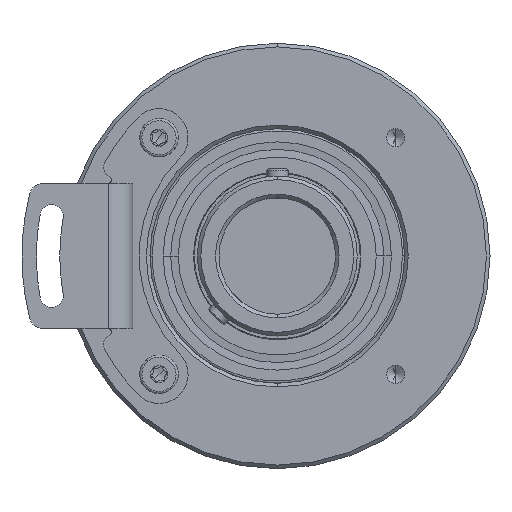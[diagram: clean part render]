
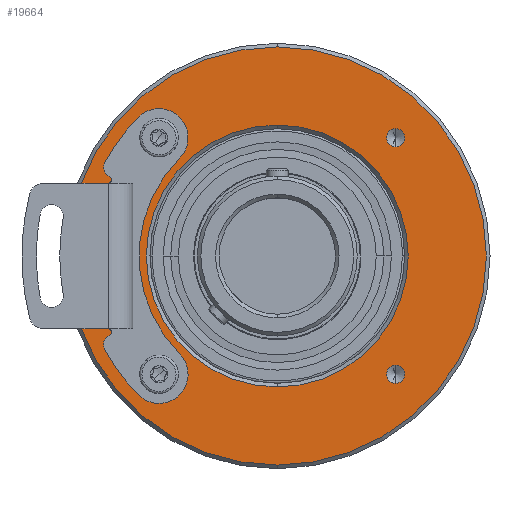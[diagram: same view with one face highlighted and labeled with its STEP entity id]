
A CAD part, front view. The second image highlights one B-rep face of the part: STEP entity #19664.
In plain terms, the highlighted planar face has unit normal (0, -1, 0).
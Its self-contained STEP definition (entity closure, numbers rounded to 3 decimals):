
#104 = CIRCLE ( 'NONE', #20118, 1.25 ) ;
#346 = CARTESIAN_POINT ( 'NONE',  ( 0., 0., 0. ) ) ;
#452 = VERTEX_POINT ( 'NONE', #20760 ) ;
#615 = VERTEX_POINT ( 'NONE', #14974 ) ;
#731 = CARTESIAN_POINT ( 'NONE',  ( 0., 0., 0. ) ) ;
#738 = EDGE_CURVE ( 'NONE', #3354, #13788, #12849, .T. ) ;
#777 = EDGE_LOOP ( 'NONE', ( #2235, #3959 ) ) ;
#1225 = VERTEX_POINT ( 'NONE', #8237 ) ;
#1447 = EDGE_CURVE ( 'NONE', #1225, #452, #11633, .T. ) ;
#1595 = ORIENTED_EDGE ( 'NONE', *, *, #738, .T. ) ;
#1706 = AXIS2_PLACEMENT_3D ( 'NONE', #731, #9106, #10756 ) ;
#1885 = VERTEX_POINT ( 'NONE', #12360 ) ;
#1924 = PLANE ( 'NONE',  #6087 ) ;
#2083 = CARTESIAN_POINT ( 'NONE',  ( -16.263, 0., -15.013 ) ) ;
#2134 = DIRECTION ( 'NONE',  ( 0., 0., -1. ) ) ;
#2235 = ORIENTED_EDGE ( 'NONE', *, *, #1447, .T. ) ;
#2426 = EDGE_CURVE ( 'NONE', #18542, #615, #21425, .T. ) ;
#2532 = FACE_BOUND ( 'NONE', #5365, .T. ) ;
#2650 = DIRECTION ( 'NONE',  ( 0., -1., 0. ) ) ;
#2663 = CIRCLE ( 'NONE', #5411, 18. ) ;
#2774 = CARTESIAN_POINT ( 'NONE',  ( -16.263, 0., 16.263 ) ) ;
#2904 = CARTESIAN_POINT ( 'NONE',  ( 16.263, 0., -15.013 ) ) ;
#2917 = DIRECTION ( 'NONE',  ( 0., 1., 0. ) ) ;
#2948 = DIRECTION ( 'NONE',  ( 0., -1., 0. ) ) ;
#2990 = ORIENTED_EDGE ( 'NONE', *, *, #6601, .F. ) ;
#3185 = CIRCLE ( 'NONE', #14535, 1.25 ) ;
#3354 = VERTEX_POINT ( 'NONE', #4374 ) ;
#3537 = EDGE_CURVE ( 'NONE', #13733, #19178, #3185, .T. ) ;
#3547 = FACE_BOUND ( 'NONE', #20777, .T. ) ;
#3959 = ORIENTED_EDGE ( 'NONE', *, *, #11028, .T. ) ;
#4222 = CIRCLE ( 'NONE', #16059, 1.25 ) ;
#4245 = CARTESIAN_POINT ( 'NONE',  ( 0., 0., 18. ) ) ;
#4374 = CARTESIAN_POINT ( 'NONE',  ( 0., 0., -18. ) ) ;
#4707 = CARTESIAN_POINT ( 'NONE',  ( 16.263, 0., 15.013 ) ) ;
#4813 = EDGE_LOOP ( 'NONE', ( #7609, #12974 ) ) ;
#5336 = CIRCLE ( 'NONE', #17114, 1.25 ) ;
#5355 = DIRECTION ( 'NONE',  ( 0., -1., 0. ) ) ;
#5365 = EDGE_LOOP ( 'NONE', ( #8271, #12304 ) ) ;
#5411 = AXIS2_PLACEMENT_3D ( 'NONE', #19467, #2917, #21156 ) ;
#5613 = CIRCLE ( 'NONE', #11476, 1.25 ) ;
#5793 = FACE_BOUND ( 'NONE', #16554, .T. ) ;
#5825 = CARTESIAN_POINT ( 'NONE',  ( -16.263, 0., 16.263 ) ) ;
#5826 = EDGE_CURVE ( 'NONE', #13788, #3354, #2663, .T. ) ;
#5861 = EDGE_CURVE ( 'NONE', #17372, #12248, #104, .T. ) ;
#5964 = ORIENTED_EDGE ( 'NONE', *, *, #3537, .F. ) ;
#5967 = AXIS2_PLACEMENT_3D ( 'NONE', #346, #18218, #16783 ) ;
#6087 = AXIS2_PLACEMENT_3D ( 'NONE', #12110, #16876, #2134 ) ;
#6329 = DIRECTION ( 'NONE',  ( 0., 0., -1. ) ) ;
#6432 = DIRECTION ( 'NONE',  ( 0., -1., 0. ) ) ;
#6601 = EDGE_CURVE ( 'NONE', #19178, #13733, #15222, .T. ) ;
#6851 = AXIS2_PLACEMENT_3D ( 'NONE', #12795, #2948, #6329 ) ;
#7043 = CARTESIAN_POINT ( 'NONE',  ( 0., 0., 0. ) ) ;
#7609 = ORIENTED_EDGE ( 'NONE', *, *, #14709, .F. ) ;
#8237 = CARTESIAN_POINT ( 'NONE',  ( 0., 0., 28.75 ) ) ;
#8271 = ORIENTED_EDGE ( 'NONE', *, *, #15898, .F. ) ;
#8576 = DIRECTION ( 'NONE',  ( 0., 0., -1. ) ) ;
#8868 = DIRECTION ( 'NONE',  ( 0., 0., -1. ) ) ;
#8919 = CARTESIAN_POINT ( 'NONE',  ( -16.263, 0., -17.513 ) ) ;
#9106 = DIRECTION ( 'NONE',  ( 0., -1., 0. ) ) ;
#9411 = AXIS2_PLACEMENT_3D ( 'NONE', #11828, #16506, #11760 ) ;
#9575 = DIRECTION ( 'NONE',  ( 0., -1., 0. ) ) ;
#9607 = DIRECTION ( 'NONE',  ( 0., 0., -1. ) ) ;
#9644 = DIRECTION ( 'NONE',  ( 0., 0., -1. ) ) ;
#10082 = CARTESIAN_POINT ( 'NONE',  ( 16.263, 0., -16.263 ) ) ;
#10466 = AXIS2_PLACEMENT_3D ( 'NONE', #7043, #16789, #8576 ) ;
#10756 = DIRECTION ( 'NONE',  ( 0., 0., -1. ) ) ;
#11028 = EDGE_CURVE ( 'NONE', #452, #1225, #19535, .T. ) ;
#11036 = FACE_OUTER_BOUND ( 'NONE', #777, .T. ) ;
#11166 = CARTESIAN_POINT ( 'NONE',  ( 16.263, 0., -17.513 ) ) ;
#11476 = AXIS2_PLACEMENT_3D ( 'NONE', #2774, #2650, #16160 ) ;
#11633 = CIRCLE ( 'NONE', #5967, 28.75 ) ;
#11639 = EDGE_CURVE ( 'NONE', #12251, #1885, #5613, .T. ) ;
#11760 = DIRECTION ( 'NONE',  ( 0., 0., -1. ) ) ;
#11828 = CARTESIAN_POINT ( 'NONE',  ( 16.263, 0., 16.263 ) ) ;
#12110 = CARTESIAN_POINT ( 'NONE',  ( 0., 0., 0. ) ) ;
#12181 = AXIS2_PLACEMENT_3D ( 'NONE', #14605, #9575, #9644 ) ;
#12248 = VERTEX_POINT ( 'NONE', #11166 ) ;
#12251 = VERTEX_POINT ( 'NONE', #16148 ) ;
#12295 = DIRECTION ( 'NONE',  ( 0., -1., 0. ) ) ;
#12304 = ORIENTED_EDGE ( 'NONE', *, *, #5861, .F. ) ;
#12360 = CARTESIAN_POINT ( 'NONE',  ( -16.263, 0., 15.013 ) ) ;
#12636 = ORIENTED_EDGE ( 'NONE', *, *, #5826, .T. ) ;
#12795 = CARTESIAN_POINT ( 'NONE',  ( -16.263, 0., -16.263 ) ) ;
#12849 = CIRCLE ( 'NONE', #10466, 18. ) ;
#12974 = ORIENTED_EDGE ( 'NONE', *, *, #11639, .F. ) ;
#13733 = VERTEX_POINT ( 'NONE', #8919 ) ;
#13788 = VERTEX_POINT ( 'NONE', #4245 ) ;
#14080 = DIRECTION ( 'NONE',  ( 0., 0., -1. ) ) ;
#14421 = DIRECTION ( 'NONE',  ( 0., -1., 0. ) ) ;
#14535 = AXIS2_PLACEMENT_3D ( 'NONE', #17891, #14421, #9607 ) ;
#14605 = CARTESIAN_POINT ( 'NONE',  ( 16.263, 0., -16.263 ) ) ;
#14709 = EDGE_CURVE ( 'NONE', #1885, #12251, #5336, .T. ) ;
#14974 = CARTESIAN_POINT ( 'NONE',  ( 16.263, 0., 17.513 ) ) ;
#15222 = CIRCLE ( 'NONE', #6851, 1.25 ) ;
#15498 = EDGE_LOOP ( 'NONE', ( #5964, #2990 ) ) ;
#15898 = EDGE_CURVE ( 'NONE', #12248, #17372, #18428, .T. ) ;
#16059 = AXIS2_PLACEMENT_3D ( 'NONE', #16873, #5355, #8868 ) ;
#16148 = CARTESIAN_POINT ( 'NONE',  ( -16.263, 0., 17.513 ) ) ;
#16160 = DIRECTION ( 'NONE',  ( 0., 0., -1. ) ) ;
#16170 = ORIENTED_EDGE ( 'NONE', *, *, #2426, .F. ) ;
#16506 = DIRECTION ( 'NONE',  ( 0., -1., 0. ) ) ;
#16554 = EDGE_LOOP ( 'NONE', ( #1595, #12636 ) ) ;
#16783 = DIRECTION ( 'NONE',  ( 0., 0., -1. ) ) ;
#16789 = DIRECTION ( 'NONE',  ( 0., 1., 0. ) ) ;
#16873 = CARTESIAN_POINT ( 'NONE',  ( 16.263, 0., 16.263 ) ) ;
#16876 = DIRECTION ( 'NONE',  ( 0., -1., 0. ) ) ;
#16918 = EDGE_CURVE ( 'NONE', #615, #18542, #4222, .T. ) ;
#17114 = AXIS2_PLACEMENT_3D ( 'NONE', #5825, #12295, #14080 ) ;
#17372 = VERTEX_POINT ( 'NONE', #2904 ) ;
#17695 = FACE_BOUND ( 'NONE', #15498, .T. ) ;
#17891 = CARTESIAN_POINT ( 'NONE',  ( -16.263, 0., -16.263 ) ) ;
#17896 = FACE_BOUND ( 'NONE', #4813, .T. ) ;
#18074 = DIRECTION ( 'NONE',  ( 0., 0., -1. ) ) ;
#18218 = DIRECTION ( 'NONE',  ( 0., -1., 0. ) ) ;
#18428 = CIRCLE ( 'NONE', #12181, 1.25 ) ;
#18542 = VERTEX_POINT ( 'NONE', #4707 ) ;
#19178 = VERTEX_POINT ( 'NONE', #2083 ) ;
#19467 = CARTESIAN_POINT ( 'NONE',  ( 0., 0., 0. ) ) ;
#19535 = CIRCLE ( 'NONE', #1706, 28.75 ) ;
#19664 = ADVANCED_FACE ( 'NONE', ( #5793, #17896, #3547, #17695, #2532, #11036 ), #1924, .T. ) ;
#20118 = AXIS2_PLACEMENT_3D ( 'NONE', #10082, #6432, #18074 ) ;
#20560 = ORIENTED_EDGE ( 'NONE', *, *, #16918, .F. ) ;
#20760 = CARTESIAN_POINT ( 'NONE',  ( 0., 0., -28.75 ) ) ;
#20777 = EDGE_LOOP ( 'NONE', ( #16170, #20560 ) ) ;
#21156 = DIRECTION ( 'NONE',  ( 0., 0., -1. ) ) ;
#21425 = CIRCLE ( 'NONE', #9411, 1.25 ) ;
